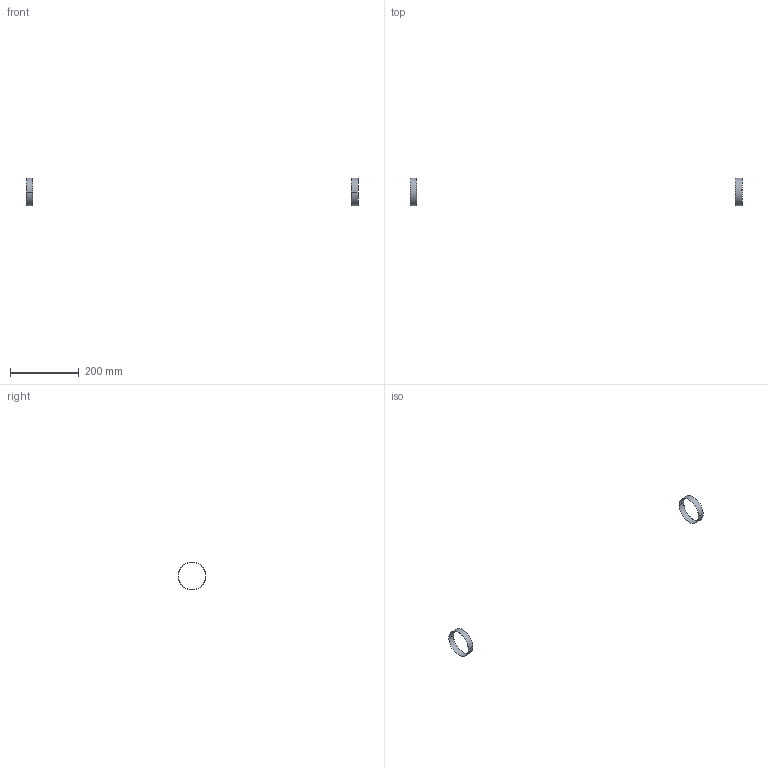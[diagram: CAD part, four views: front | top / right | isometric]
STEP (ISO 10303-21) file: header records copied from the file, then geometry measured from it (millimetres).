
FILE_DESCRIPTION(/* description */ (''),/* implementation_level */ '2;1');
FILE_NAME(/* name */ '10.optics-laser#10.6#la-rubt',/* time_stamp */ '2014-12-01T20:19:34+01:00',/* author */ (''),/* organization */ (''),/* preprocessor_version */ 'ST-DEVELOPER v14',/* originating_system */ '',/* authorisation */ '');
FILE_SCHEMA (('AUTOMOTIVE_DESIGN'));
Length unit declared in the file: millimetre
Products named in the file (1): Document
Bounding box: 969 x 80.6 x 80.52 mm (x, y, z)
Volume: 2884.7 mm3; surface area: 19483.1 mm2
Topology: 2 solids, 2 shells, 12 faces, 24 edges, 16 vertices
Faces by surface type: bspline 8, plane 4
Entity records: 747 total; most frequent: CARTESIAN_POINT 406, ORIENTED_EDGE 48, PCURVE 48, DEFINITIONAL_REPRESENTATION 48, B_SPLINE_CURVE_WITH_KNOTS 32, SURFACE_CURVE 24, EDGE_CURVE 24, EDGE_LOOP 16
